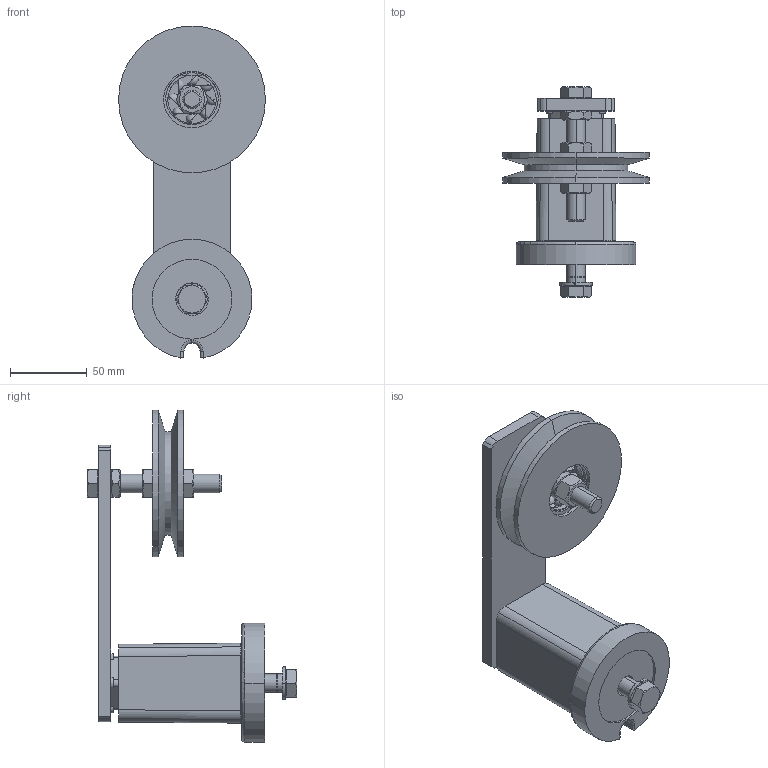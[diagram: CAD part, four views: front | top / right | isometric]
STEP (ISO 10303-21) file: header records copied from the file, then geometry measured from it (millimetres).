
FILE_DESCRIPTION((''),'2;1');
FILE_NAME('\\rostaofc\data\uw\save\daten_f\Normprogramm 3D\Spannelemente\KSE27-SPA1_06201004.stp','2004-09-28T11:18:57',('uw'),(''),'Autodesk Inventor 8','Autodesk Inventor 8','');
FILE_SCHEMA(('AUTOMOTIVE_DESIGN { 1 0 10303 214 1 1 1 1 }'));
Length unit declared in the file: millimetre
Products named in the file (18): ROSTA-Spannelement KSE 27 SPA 90-1; SE27; Spannelement-Gehäuse SE27; Gehäuse; Innenteil zu SE27; Hebel zu SE27 (m. 2- Loch); 3_10_6665-001; 3_10_6673-002; Sechskantschraube - M12 x 40; Federring - A12; SK3200-003; Keilriemenscheibe SPA 90-1 komplett; Keilriemenscheibe SPA 90-1 bearbeitet; C3; 06408558-001; Sechskantschraube - M12 x 80; Sechskantmutter - M12
Assembly tree (22 placements, depth 4):
  ROSTA-Spannelement KSE 27 SPA 90-1
    SE27
      Spannelement-Gehäuse SE27
        Gehäuse
      Innenteil zu SE27
        Hebel zu SE27 (m. 2- Loch)
        3_10_6665-001
      3_10_6673-002  x4
      Sechskantschraube - M12 x 40
      Federring - A12
      SK3200-003
    Keilriemenscheibe SPA 90-1 komplett
      Keilriemenscheibe SPA 90-1 bearbeitet
      C3
      06408558-001  x2
    Sechskantschraube - M12 x 80
    Sechskantmutter - M12
    Sechskantmutter - M12  x2
Bounding box: 95.6 x 136.5 x 216.08 mm (x, y, z)
Volume: 409238.8 mm3; surface area: 139640.1 mm2
Topology: 19 solids, 27 shells, 439 faces, 1096 edges, 661 vertices
Faces by surface type: cylinder 154, plane 140, bspline 56, cone 49, sphere 26, torus 14
Entity records: 12348 total; most frequent: CARTESIAN_POINT 2884, DIRECTION 2103, ORIENTED_EDGE 1812, EDGE_CURVE 906, AXIS2_PLACEMENT_3D 882, VERTEX_POINT 557, CIRCLE 470, EDGE_LOOP 440
